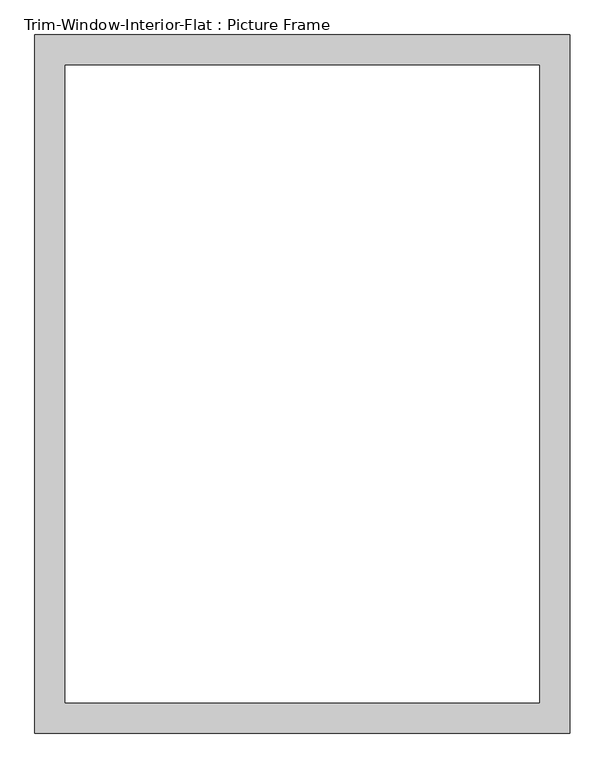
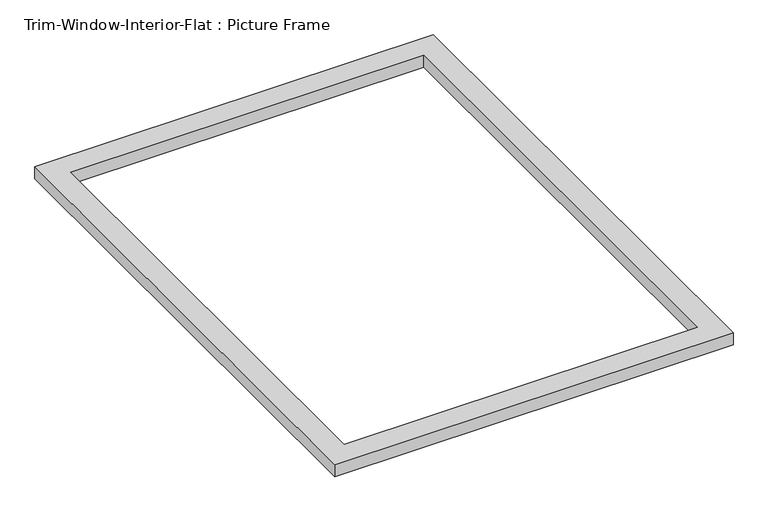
"""IFC4 building model written with IfcOpenShell, lengths in millimetres: proxy geometry, Trim-Window-Interior-Flat : Picture Frame."""

from ifc_helpers import new_model, si_unit, origin, origin_with_axes, place, context, project, spatial, polyline, outline, extrude, source, transform, mapped, element, save


def trim_window_interior_flat_picture_frame_ab41cb78(model_context):
    return source(origin(), model_context, "Body", "SweptSolid", [
        extrude(outline(polyline([(501.95, 44.45), (501.95, -1264.45), (-501.95, -1264.45), (-501.95, 44.45), (501.95, 44.45)]), holes=[polyline([(444.8, -12.7), (-444.8, -12.7), (-444.8, -1207.3), (444.8, -1207.3), (444.8, -12.7)])]), origin_with_axes(), (0.0, 0.0, 1.0), 31.75),
    ])


if __name__ == "__main__":
    model = new_model("IFC4")
    model_context = context("Model", 3, world=origin())
    ifc_project = project(units=[si_unit("LENGTHUNIT", "METRE", prefix="MILLI")], contexts=[model_context])
    site = spatial("IfcSite", under=ifc_project)
    building = spatial("IfcBuilding", under=site)
    placement = place(None, origin())
    trim_window_interior_flat_picture_frame_shape = trim_window_interior_flat_picture_frame_ab41cb78(model_context)
    element("IfcBuildingElementProxy", 1, Name="Trim-Window-Interior-Flat : Picture Frame", ObjectType="Trim-Window-Interior-Flat : Picture Frame", at=placement, inside=building, context=model_context, shape_type="MappedRepresentation", body=[
        mapped(trim_window_interior_flat_picture_frame_shape, transform((0.0, 0.0, 0.0), x_axis=(1.0, 0.0, 0.0), y_axis=(0.0, 1.0, 0.0), z_axis=(0.0, 0.0, 1.0))),
    ])
    save(model, "model.ifc")
